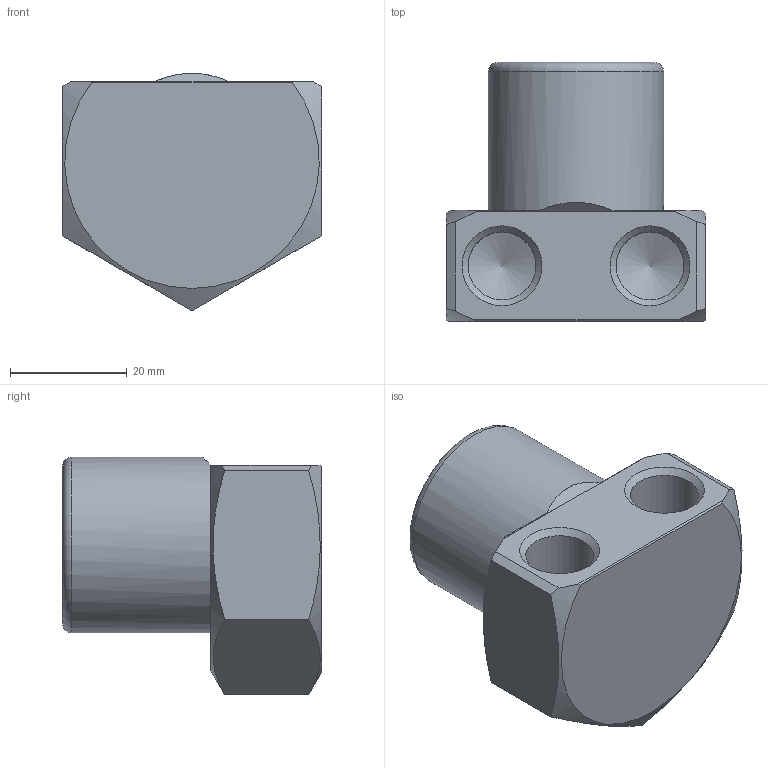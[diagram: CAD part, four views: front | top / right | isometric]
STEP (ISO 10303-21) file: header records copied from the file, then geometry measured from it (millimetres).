
FILE_DESCRIPTION(/* description */ (''),/* implementation_level */ '2;1');
FILE_NAME(/* name */ 'C:/Users/drich/Desktop/ET1214H v3.step',/* time_stamp */ '2019-11-18T13:36:42-06:00',/* author */ (''),/* organization */ (''),/* preprocessor_version */ 'ST-DEVELOPER v18',/* originating_system */ 'Autodesk Translation Framework v8.12.0.6',/* authorisation */ '');
FILE_SCHEMA (('AUTOMOTIVE_DESIGN { 1 0 10303 214 3 1 1 }'));
Length unit declared in the file: inch
Products named in the file (2): ET1214H; ET1214H_1
Assembly tree (1 placements, depth 2):
  ET1214H
    ET1214H_1
Bounding box: 44.45 x 44.45 x 40.72 mm (x, y, z)
Volume: 33735.5 mm3; surface area: 11214 mm2
Topology: 1 solids, 1 shells, 34 faces, 89 edges, 59 vertices
Faces by surface type: plane 16, cylinder 10, cone 7, torus 1
Full cylindrical faces by diameter (mm): 9.881 x1, 11.668 x2, 18.901 x1, 30.124 x1
Entity records: 1093 total; most frequent: CARTESIAN_POINT 225, DIRECTION 177, ORIENTED_EDGE 174, EDGE_CURVE 87, AXIS2_PLACEMENT_3D 74, VERTEX_POINT 59, EDGE_LOOP 38, FACE_OUTER_BOUND 34
